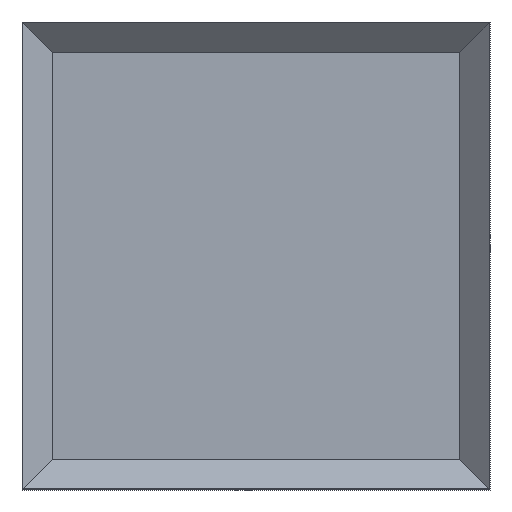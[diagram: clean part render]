
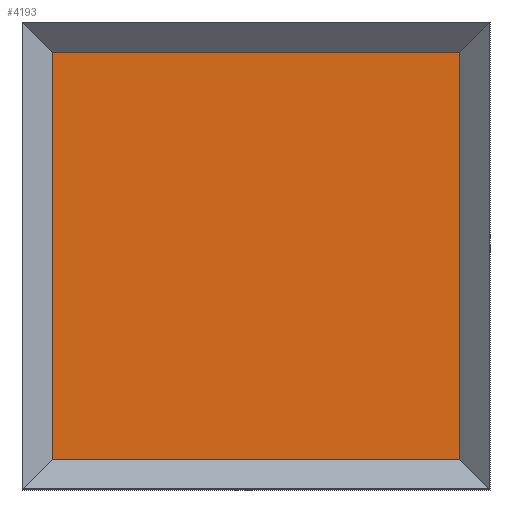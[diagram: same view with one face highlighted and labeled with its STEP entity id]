
A CAD part, front view. The second image highlights one B-rep face of the part: STEP entity #4193.
In plain terms, the highlighted planar face has unit normal (0, -1, 0).
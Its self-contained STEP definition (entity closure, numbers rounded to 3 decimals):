
#4122=DIRECTION('',(-0.707,0.,0.707));
#4123=VECTOR('',#4122,4.243);
#4124=CARTESIAN_POINT('',(-136.,497.887,-139.));
#4125=LINE('',#4124,#4123);
#4126=DIRECTION('',(0.,0.,1.));
#4127=VECTOR('',#4126,272.);
#4128=CARTESIAN_POINT('',(-139.,497.887,-136.));
#4129=LINE('',#4128,#4127);
#4130=DIRECTION('',(0.707,0.,0.707));
#4131=VECTOR('',#4130,4.243);
#4132=CARTESIAN_POINT('',(-139.,497.887,136.));
#4133=LINE('',#4132,#4131);
#4134=DIRECTION('',(1.,0.,0.));
#4135=VECTOR('',#4134,272.);
#4136=CARTESIAN_POINT('',(-136.,497.887,139.));
#4137=LINE('',#4136,#4135);
#4138=DIRECTION('',(0.707,0.,-0.707));
#4139=VECTOR('',#4138,4.243);
#4140=CARTESIAN_POINT('',(136.,497.887,139.));
#4141=LINE('',#4140,#4139);
#4142=DIRECTION('',(0.,0.,-1.));
#4143=VECTOR('',#4142,272.);
#4144=CARTESIAN_POINT('',(139.,497.887,136.));
#4145=LINE('',#4144,#4143);
#4146=DIRECTION('',(-0.707,0.,-0.707));
#4147=VECTOR('',#4146,4.243);
#4148=CARTESIAN_POINT('',(139.,497.887,-136.));
#4149=LINE('',#4148,#4147);
#4150=DIRECTION('',(-1.,0.,0.));
#4151=VECTOR('',#4150,272.);
#4152=CARTESIAN_POINT('',(136.,497.887,-139.));
#4153=LINE('',#4152,#4151);
#4154=CARTESIAN_POINT('',(-139.,497.887,-136.));
#4155=CARTESIAN_POINT('',(-136.,497.887,-139.));
#4156=VERTEX_POINT('',#4154);
#4157=VERTEX_POINT('',#4155);
#4158=CARTESIAN_POINT('',(136.,497.887,-139.));
#4159=VERTEX_POINT('',#4158);
#4160=CARTESIAN_POINT('',(-139.,497.887,136.));
#4161=VERTEX_POINT('',#4160);
#4162=CARTESIAN_POINT('',(139.,497.887,136.));
#4163=CARTESIAN_POINT('',(136.,497.887,139.));
#4164=VERTEX_POINT('',#4162);
#4165=VERTEX_POINT('',#4163);
#4166=CARTESIAN_POINT('',(-136.,497.887,139.));
#4167=VERTEX_POINT('',#4166);
#4168=CARTESIAN_POINT('',(139.,497.887,-136.));
#4169=VERTEX_POINT('',#4168);
#4170=CARTESIAN_POINT('',(0.,497.887,0.));
#4171=DIRECTION('',(0.,1.,0.));
#4172=DIRECTION('',(1.,0.,0.));
#4173=AXIS2_PLACEMENT_3D('',#4170,#4171,#4172);
#4174=PLANE('',#4173);
#4176=ORIENTED_EDGE('',*,*,#4175,.T.);
#4178=ORIENTED_EDGE('',*,*,#4177,.T.);
#4180=ORIENTED_EDGE('',*,*,#4179,.T.);
#4182=ORIENTED_EDGE('',*,*,#4181,.T.);
#4184=ORIENTED_EDGE('',*,*,#4183,.T.);
#4186=ORIENTED_EDGE('',*,*,#4185,.T.);
#4188=ORIENTED_EDGE('',*,*,#4187,.T.);
#4190=ORIENTED_EDGE('',*,*,#4189,.T.);
#4191=EDGE_LOOP('',(#4176,#4178,#4180,#4182,#4184,#4186,#4188,#4190));
#4192=FACE_OUTER_BOUND('',#4191,.F.);
#4193=ADVANCED_FACE('',(#4192),#4174,.F.);
#4175=EDGE_CURVE('',#4157,#4156,#4125,.T.);
#4177=EDGE_CURVE('',#4156,#4161,#4129,.T.);
#4179=EDGE_CURVE('',#4161,#4167,#4133,.T.);
#4181=EDGE_CURVE('',#4167,#4165,#4137,.T.);
#4183=EDGE_CURVE('',#4165,#4164,#4141,.T.);
#4185=EDGE_CURVE('',#4164,#4169,#4145,.T.);
#4187=EDGE_CURVE('',#4169,#4159,#4149,.T.);
#4189=EDGE_CURVE('',#4159,#4157,#4153,.T.);
